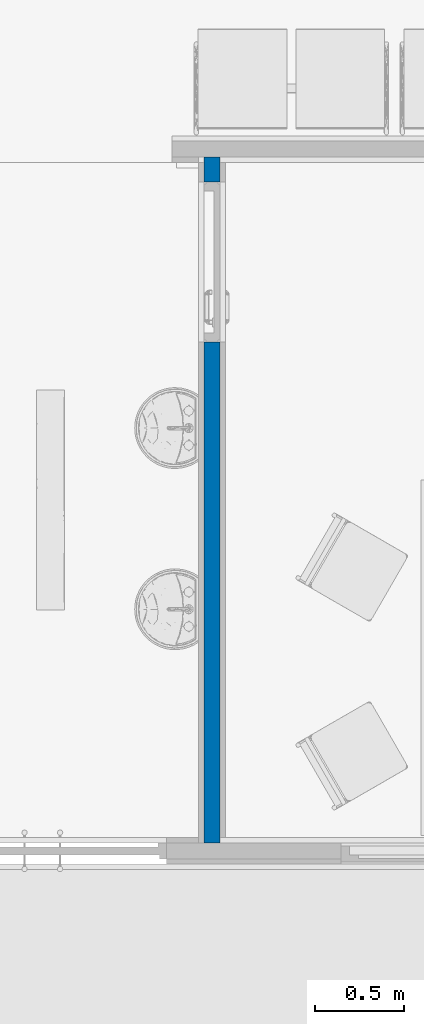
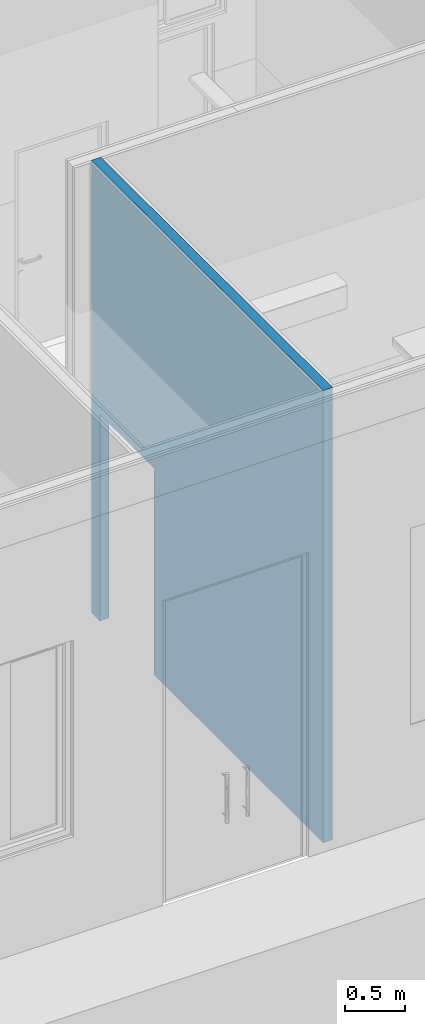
# One storey, part 10 of 155: 1 wall, 1 opening.
"""IFC2X3 building model written with IfcOpenShell, lengths in metres."""

from ifc_helpers import new_model, entity, si_unit, converted_unit, derived_unit, direction, frame, frame_2d, origin, place, context, subcontext, project, spatial, rectangle, extrude, material, layer, layer_set, layer_usage, type_object, element, save


model = new_model("IFC2X3")

# Units and contexts
model_context = context("Model", 3, precision=1e-05, world=origin(), true_north=direction((6.12303176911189e-17, 1.0)))
body_context = subcontext(model_context, "Body", "Model", "MODEL_VIEW")
ifc_project = project(units=[si_unit("LENGTHUNIT", "METRE"), si_unit("AREAUNIT", "SQUARE_METRE"), si_unit("VOLUMEUNIT", "CUBIC_METRE"), converted_unit("PLANEANGLEUNIT", "DEGREE", entity("IfcRatioMeasure", 0.0174532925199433), si_unit("PLANEANGLEUNIT", "RADIAN"), dimensions=[0, 0, 0, 0, 0, 0, 0]), si_unit("MASSUNIT", "GRAM", prefix="KILO"), derived_unit("MASSDENSITYUNIT", [(si_unit("MASSUNIT", "GRAM", prefix="KILO"), 1), (si_unit("LENGTHUNIT", "METRE"), -3)]), si_unit("TIMEUNIT", "SECOND"), si_unit("FREQUENCYUNIT", "HERTZ"), si_unit("THERMODYNAMICTEMPERATUREUNIT", "DEGREE_CELSIUS"), derived_unit("THERMALTRANSMITTANCEUNIT", [(si_unit("MASSUNIT", "GRAM", prefix="KILO"), 1), (si_unit("THERMODYNAMICTEMPERATUREUNIT", "KELVIN"), -1), (si_unit("TIMEUNIT", "SECOND"), -3)]), derived_unit("VOLUMETRICFLOWRATEUNIT", [(si_unit("LENGTHUNIT", "METRE"), 3), (si_unit("TIMEUNIT", "SECOND"), -1)]), si_unit("ELECTRICCURRENTUNIT", "AMPERE"), si_unit("ELECTRICVOLTAGEUNIT", "VOLT"), si_unit("POWERUNIT", "WATT"), si_unit("FORCEUNIT", "NEWTON", prefix="KILO"), si_unit("ILLUMINANCEUNIT", "LUX"), si_unit("LUMINOUSFLUXUNIT", "LUMEN"), si_unit("LUMINOUSINTENSITYUNIT", "CANDELA"), derived_unit("USERDEFINED", [(si_unit("MASSUNIT", "GRAM", prefix="KILO"), -1), (si_unit("LENGTHUNIT", "METRE"), -2), (si_unit("TIMEUNIT", "SECOND"), 3), (si_unit("LUMINOUSFLUXUNIT", "LUMEN"), 1)]), derived_unit("LINEARVELOCITYUNIT", [(si_unit("LENGTHUNIT", "METRE"), 1), (si_unit("TIMEUNIT", "SECOND"), -1)]), si_unit("PRESSUREUNIT", "PASCAL"), derived_unit("USERDEFINED", [(si_unit("LENGTHUNIT", "METRE"), -2), (si_unit("MASSUNIT", "GRAM", prefix="KILO"), 1), (si_unit("TIMEUNIT", "SECOND"), -2)])], contexts=[model_context])

# Site, building, storey
site_placement = place(None, frame((26.9889013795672, -17.5624287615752, 0.0)))
site = spatial("IfcSite", under=ifc_project, at=site_placement, Name="Default", CompositionType="ELEMENT")
building_placement = place(site_placement, origin())
building = spatial("IfcBuilding", under=site, at=building_placement, Name="C. C. L. Monsenhor Antônio Sampaio", CompositionType="ELEMENT")
storey_placement = place(building_placement, frame((0.0, 0.0, 1.19999999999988)))
storey = spatial("IfcBuildingStorey", under=building, at=storey_placement, Name="Nível 1.2", CompositionType="ELEMENT", Elevation=1.19999999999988)

# Wall, opening
ifc_material = material(Name="ALVENARIA")
ifc_layer = layer(ifc_material, 0.09)
ifc_layer_set = layer_set([ifc_layer], Name="Parede básica:ENucleo parede 15cm")
ifc_layer_usage = layer_usage(ifc_layer_set, "AXIS2", "NEGATIVE", 0.045)
wall_type = type_object("IfcWallType", Name="Parede básica:ENucleo parede 15cm", PredefinedType="STANDARD", material=ifc_layer_set)
wall_placement = place(storey_placement, frame((-0.295552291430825, -39.3330663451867, 0.0), z_axis=(0.0, 0.0, 1.0), x_axis=(0.0, 1.0, 0.0)))
wall = element("IfcWallStandardCase", 1, at=wall_placement, inside=storey, type_object=wall_type, material=ifc_layer_usage, Name="Parede básica:ENucleo parede 15cm", ObjectType="Parede básica:ENucleo parede 15cm", context=body_context, shape_type="SweptSolid", body=[
    extrude(rectangle(XDim=3.86000000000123, YDim=0.09, at=frame_2d((1.93000000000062, 0.0), x_axis=(-1.0, 0.0))), origin(), (0.0, 0.0, 1.0), 4.60000000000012),
])
opening_placement = place(wall_placement, frame((3.72000000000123, 0.0449999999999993, 0.0)))
element("IfcOpeningElement", 2, at=opening_placement, cuts=wall, Name="Porta levantamento:90 x 211 AZUL:1", ObjectType="Opening", context=body_context, shape_type="SweptSolid", body=[
    extrude(rectangle(XDim=2.09999999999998, YDim=0.9, at=frame_2d((1.04999999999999, 0.450000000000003), x_axis=(1.0, 0.0))), frame((0.0, 0.0, 0.0), z_axis=(0.0, -1.0, 0.0), x_axis=(0.0, 0.0, 1.0)), (0.0, 0.0, 1.0), 0.09),
])

save(model, "model.ifc")
